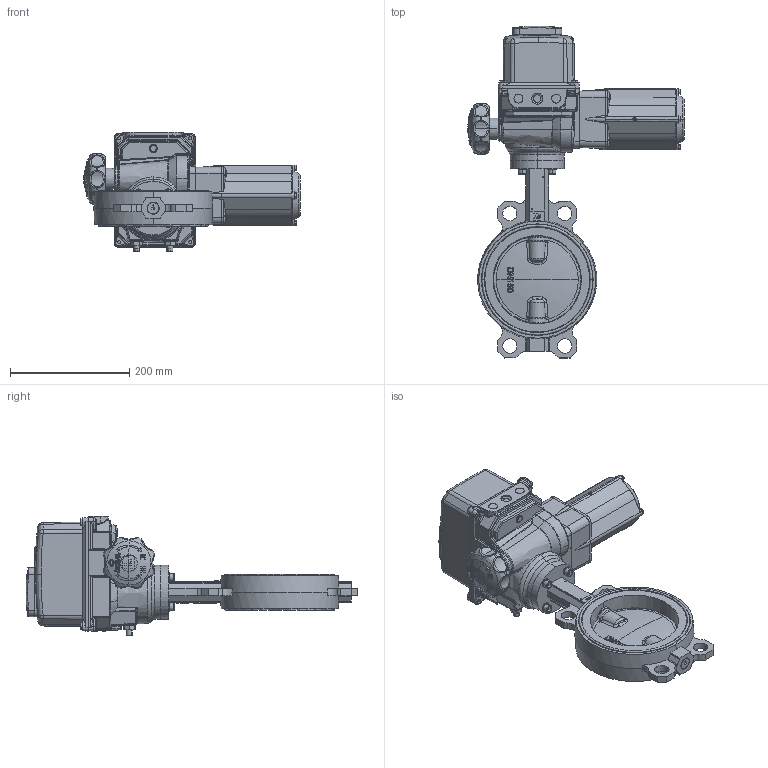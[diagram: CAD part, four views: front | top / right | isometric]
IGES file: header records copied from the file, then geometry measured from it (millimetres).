
Start section: SolidWorks IGES file using NURBS representation for surfaces
Global section: file name: H:\BE BIBLIOTHEQUE 3D\Projet_Biblio3D_2016\FSK\VPI\VPI-B04\VPI-B24 DN150.Igs; native system: SolidWorks 2014; preprocessor: SolidWorks 2014; author: a.cartier; date: 160929.165926; units: millimetre
Bounding box: 362.25 x 555.7 x 199.8 mm (x, y, z)
Volume: 6578456.8 mm3; surface area: 463902.6 mm2
Topology: 14 solids, 14 shells, 2437 faces, 6349 edges, 3988 vertices
Faces by surface type: bspline 2437
